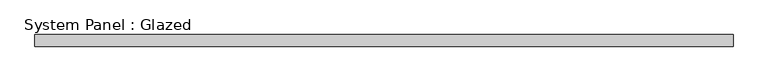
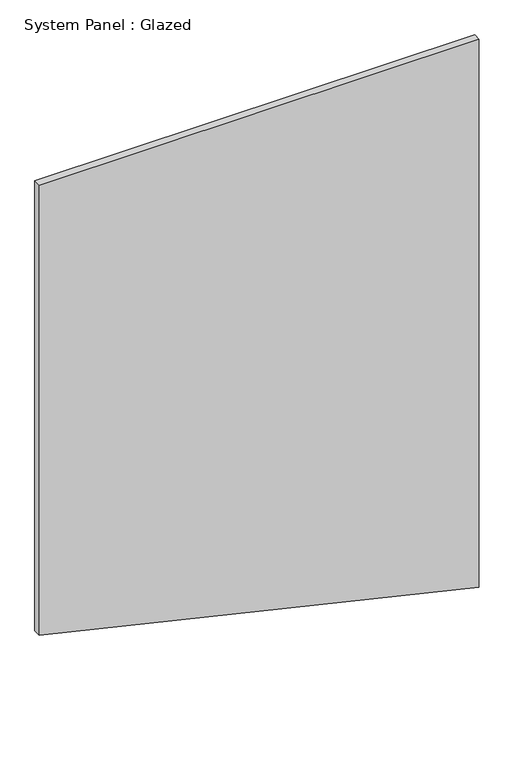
"""IFC4 building model written with IfcOpenShell, lengths in millimetres: plate geometry, System Panel : Glazed."""

from ifc_helpers import new_model, si_unit, frame, origin, place, context, project, spatial, polyline, outline, extrude, source, transform, mapped, element, save


def system_panel_glazed_006a2f4f(model_context):
    return source(origin(), model_context, "Body", "SweptSolid", [
        extrude(outline(polyline([(339.8827112, -723.3695652), (0.0, 723.3695652), (1904.783568, 723.3695652), (1904.783568, -723.3695652), (339.8827112, -723.3695652)])), frame((0.0, 24.5, 0.0), z_axis=(0.0, 1.0, 0.0), x_axis=(0.0, 0.0, 1.0)), (0.0, 0.0, 1.0), 25.0),
    ])


if __name__ == "__main__":
    model = new_model("IFC4")
    model_context = context("Model", 3, world=origin())
    ifc_project = project(units=[si_unit("LENGTHUNIT", "METRE", prefix="MILLI")], contexts=[model_context])
    site = spatial("IfcSite", under=ifc_project)
    building = spatial("IfcBuilding", under=site)
    placement = place(None, origin())
    system_panel_glazed_shape = system_panel_glazed_006a2f4f(model_context)
    element("IfcPlate", 1, ObjectType="System Panel : Glazed", at=placement, inside=building, context=model_context, shape_type="MappedRepresentation", body=[
        mapped(system_panel_glazed_shape, transform((0.0, 0.0, 0.0), x_axis=(1.0, 0.0, 0.0), y_axis=(0.0, 1.0, 0.0), z_axis=(0.0, 0.0, 1.0))),
    ])
    save(model, "model.ifc")
